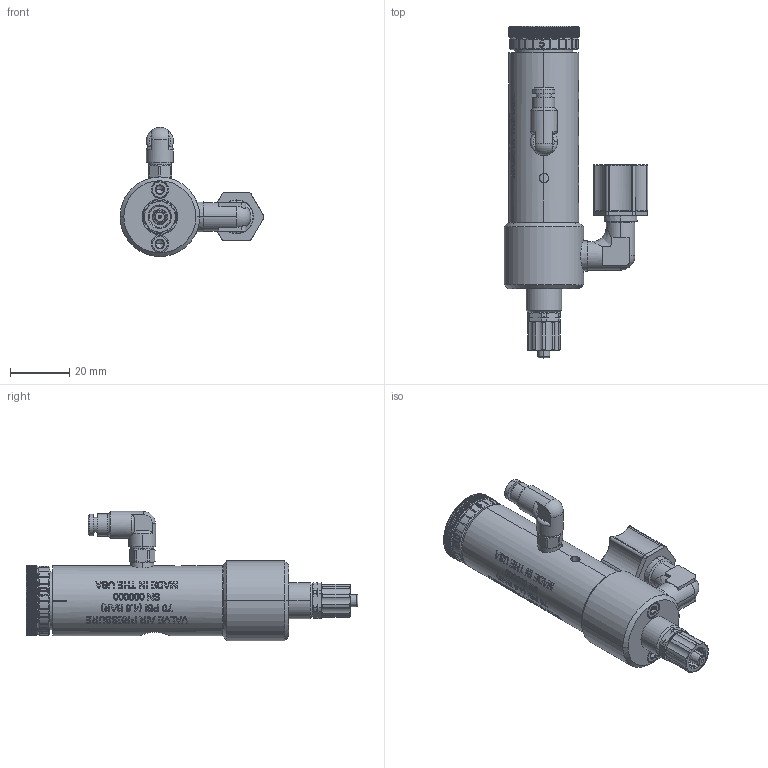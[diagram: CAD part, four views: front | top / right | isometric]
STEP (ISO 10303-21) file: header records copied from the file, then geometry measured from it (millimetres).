
FILE_DESCRIPTION (( 'STEP AP214' ), '1' );
FILE_NAME ('NORDSONEFD-7007029 741V-SS ADJUSTABLE NEEDLE VALVE.STEP', '2019-01-07T07:59:32', ( '' ), ( '' ), 'SwSTEP 2.0', 'SolidWorks 2018', '' );
FILE_SCHEMA (( 'AUTOMOTIVE_DESIGN' ));
Length unit declared in the file: inch
Products named in the file (1): NORDSONEFD-7007029 741V-SS ADJUSTABLE NEEDLE VALVE
Bounding box: 48.67 x 112.31 x 43.69 mm (x, y, z)
Volume: 49603.5 mm3; surface area: 14005.9 mm2
Topology: 1 solids, 1 shells, 1734 faces, 4690 edges, 3072 vertices
Faces by surface type: plane 813, bspline 379, cylinder 366, cone 105, torus 70, sphere 1
Entity records: 76662 total; most frequent: CARTESIAN_POINT 33191, ORIENTED_EDGE 9362, DIRECTION 6751, EDGE_CURVE 4681, VERTEX_POINT 3072, AXIS2_PLACEMENT_3D 2376, LINE 1999, VECTOR 1999
